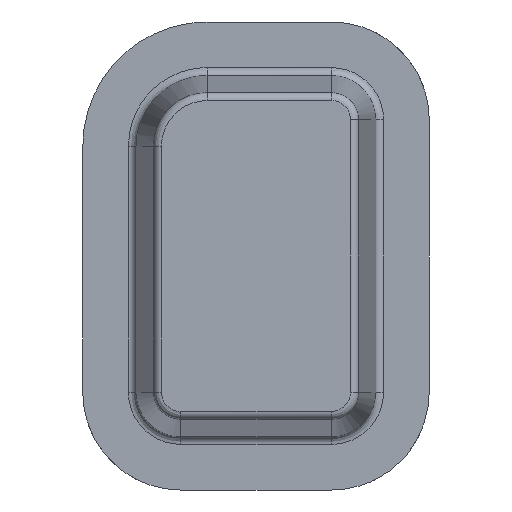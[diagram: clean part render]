
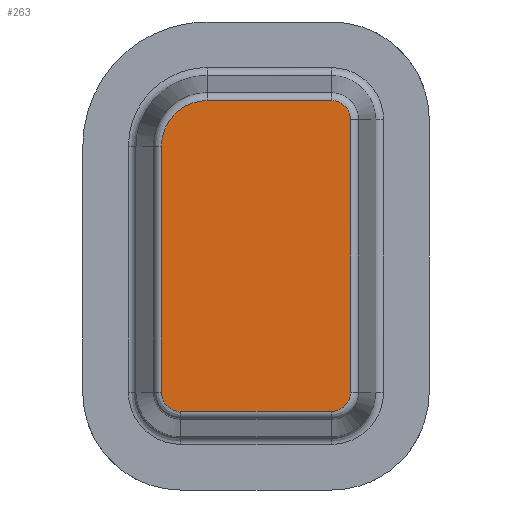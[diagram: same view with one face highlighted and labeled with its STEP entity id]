
A CAD part, front view. The second image highlights one B-rep face of the part: STEP entity #263.
In plain terms, the highlighted planar face has unit normal (0, -1, 0).
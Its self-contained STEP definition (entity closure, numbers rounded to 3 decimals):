
#144=CARTESIAN_POINT('Axis2P3D Location',(39.58,0.,60.42)) ;
#149=CARTESIAN_POINT('Line Origine',(2.749,0.,56.5)) ;
#153=CARTESIAN_POINT('Vertex',(2.749,0.,103.)) ;
#155=CARTESIAN_POINT('Vertex',(2.749,0.,10.)) ;
#159=CARTESIAN_POINT('Control Point',(2.749,0.,10.)) ;
#160=CARTESIAN_POINT('Control Point',(2.749,0.,9.039)) ;
#161=CARTESIAN_POINT('Control Point',(2.908,0.,8.077)) ;
#162=CARTESIAN_POINT('Control Point',(3.227,0.,7.153)) ;
#163=CARTESIAN_POINT('Control Point',(4.157,0.,5.444)) ;
#164=CARTESIAN_POINT('Control Point',(5.587,0.,4.125)) ;
#165=CARTESIAN_POINT('Control Point',(6.406,0.,3.591)) ;
#166=CARTESIAN_POINT('Control Point',(7.615,0.,3.065)) ;
#167=CARTESIAN_POINT('Control Point',(8.897,0.,2.821)) ;
#168=CARTESIAN_POINT('Control Point',(9.235,0.,2.777)) ;
#169=CARTESIAN_POINT('Control Point',(9.592,0.,2.752)) ;
#170=CARTESIAN_POINT('Control Point',(9.95,0.,2.749)) ;
#171=CARTESIAN_POINT('Control Point',(9.967,0.,2.749)) ;
#172=CARTESIAN_POINT('Control Point',(9.983,0.,2.749)) ;
#173=CARTESIAN_POINT('Control Point',(10.,0.,2.749)) ;
#174=CARTESIAN_POINT('Vertex',(10.,0.,2.749)) ;
#177=CARTESIAN_POINT('Line Origine',(38.5,0.,2.749)) ;
#181=CARTESIAN_POINT('Vertex',(67.,0.,2.749)) ;
#185=CARTESIAN_POINT('Control Point',(67.,0.,2.749)) ;
#186=CARTESIAN_POINT('Control Point',(67.961,0.,2.749)) ;
#187=CARTESIAN_POINT('Control Point',(68.923,0.,2.908)) ;
#188=CARTESIAN_POINT('Control Point',(69.847,0.,3.227)) ;
#189=CARTESIAN_POINT('Control Point',(71.556,0.,4.157)) ;
#190=CARTESIAN_POINT('Control Point',(72.875,0.,5.587)) ;
#191=CARTESIAN_POINT('Control Point',(73.409,0.,6.406)) ;
#192=CARTESIAN_POINT('Control Point',(73.935,0.,7.615)) ;
#193=CARTESIAN_POINT('Control Point',(74.179,0.,8.897)) ;
#194=CARTESIAN_POINT('Control Point',(74.223,0.,9.235)) ;
#195=CARTESIAN_POINT('Control Point',(74.248,0.,9.592)) ;
#196=CARTESIAN_POINT('Control Point',(74.251,0.,9.95)) ;
#197=CARTESIAN_POINT('Control Point',(74.251,0.,9.967)) ;
#198=CARTESIAN_POINT('Control Point',(74.251,0.,9.983)) ;
#199=CARTESIAN_POINT('Control Point',(74.251,0.,10.)) ;
#200=CARTESIAN_POINT('Vertex',(74.251,0.,10.)) ;
#203=CARTESIAN_POINT('Line Origine',(74.251,0.,61.5)) ;
#207=CARTESIAN_POINT('Vertex',(74.251,0.,113.)) ;
#211=CARTESIAN_POINT('Control Point',(74.251,0.,113.)) ;
#212=CARTESIAN_POINT('Control Point',(74.251,0.,113.961)) ;
#213=CARTESIAN_POINT('Control Point',(74.092,0.,114.923)) ;
#214=CARTESIAN_POINT('Control Point',(73.773,0.,115.847)) ;
#215=CARTESIAN_POINT('Control Point',(72.843,0.,117.556)) ;
#216=CARTESIAN_POINT('Control Point',(71.413,0.,118.875)) ;
#217=CARTESIAN_POINT('Control Point',(70.594,0.,119.409)) ;
#218=CARTESIAN_POINT('Control Point',(69.385,0.,119.935)) ;
#219=CARTESIAN_POINT('Control Point',(68.103,0.,120.179)) ;
#220=CARTESIAN_POINT('Control Point',(67.765,0.,120.223)) ;
#221=CARTESIAN_POINT('Control Point',(67.408,0.,120.248)) ;
#222=CARTESIAN_POINT('Control Point',(67.05,0.,120.251)) ;
#223=CARTESIAN_POINT('Control Point',(67.033,0.,120.251)) ;
#224=CARTESIAN_POINT('Control Point',(67.017,0.,120.251)) ;
#225=CARTESIAN_POINT('Control Point',(67.,0.,120.251)) ;
#226=CARTESIAN_POINT('Vertex',(67.,0.,120.251)) ;
#229=CARTESIAN_POINT('Line Origine',(43.5,0.,120.251)) ;
#233=CARTESIAN_POINT('Vertex',(20.,0.,120.251)) ;
#237=CARTESIAN_POINT('Control Point',(20.,0.,120.251)) ;
#238=CARTESIAN_POINT('Control Point',(18.077,0.,120.251)) ;
#239=CARTESIAN_POINT('Control Point',(16.154,0.,119.983)) ;
#240=CARTESIAN_POINT('Control Point',(14.282,0.,119.447)) ;
#241=CARTESIAN_POINT('Control Point',(10.736,0.,117.869)) ;
#242=CARTESIAN_POINT('Control Point',(7.758,0.,115.383)) ;
#243=CARTESIAN_POINT('Control Point',(6.452,0.,113.939)) ;
#244=CARTESIAN_POINT('Control Point',(4.494,0.,111.046)) ;
#245=CARTESIAN_POINT('Control Point',(3.314,0.,107.769)) ;
#246=CARTESIAN_POINT('Control Point',(2.954,0.,106.26)) ;
#247=CARTESIAN_POINT('Control Point',(2.762,0.,104.686)) ;
#248=CARTESIAN_POINT('Control Point',(2.749,0.,103.11)) ;
#249=CARTESIAN_POINT('Control Point',(2.749,0.,103.073)) ;
#250=CARTESIAN_POINT('Control Point',(2.749,0.,103.037)) ;
#251=CARTESIAN_POINT('Control Point',(2.749,0.,103.)) ;
#145=DIRECTION('Axis2P3D Direction',(0.,-1.,0.)) ;
#146=DIRECTION('Axis2P3D XDirection',(0.061,0.,0.998)) ;
#150=DIRECTION('Vector Direction',(0.,0.,1.)) ;
#178=DIRECTION('Vector Direction',(1.,0.,0.)) ;
#204=DIRECTION('Vector Direction',(0.,0.,1.)) ;
#230=DIRECTION('Vector Direction',(-1.,0.,0.)) ;
#147=AXIS2_PLACEMENT_3D('Plane Axis2P3D',#144,#145,#146) ;
#254=ORIENTED_EDGE('',*,*,#157,.T.) ;
#255=ORIENTED_EDGE('',*,*,#176,.T.) ;
#256=ORIENTED_EDGE('',*,*,#183,.T.) ;
#257=ORIENTED_EDGE('',*,*,#202,.T.) ;
#258=ORIENTED_EDGE('',*,*,#209,.T.) ;
#259=ORIENTED_EDGE('',*,*,#228,.T.) ;
#260=ORIENTED_EDGE('',*,*,#235,.T.) ;
#261=ORIENTED_EDGE('',*,*,#252,.T.) ;
#151=VECTOR('Line Direction',#150,1.) ;
#179=VECTOR('Line Direction',#178,1.) ;
#205=VECTOR('Line Direction',#204,1.) ;
#231=VECTOR('Line Direction',#230,1.) ;
#263=ADVANCED_FACE('base',(#262),#148,.T.) ;
#158=B_SPLINE_CURVE_WITH_KNOTS('',5,(#159,#160,#161,#162,#163,#164,#165,#166,#167,#168,#169,#170,#171,#172,#173),.UNSPECIFIED.,.F.,.U.,(6,3,3,3,6),(30.448,40.857,51.271,54.961,55.142),.UNSPECIFIED.) ;
#184=B_SPLINE_CURVE_WITH_KNOTS('',5,(#185,#186,#187,#188,#189,#190,#191,#192,#193,#194,#195,#196,#197,#198,#199),.UNSPECIFIED.,.F.,.U.,(6,3,3,3,6),(30.448,40.857,51.271,54.961,55.142),.UNSPECIFIED.) ;
#210=B_SPLINE_CURVE_WITH_KNOTS('',5,(#211,#212,#213,#214,#215,#216,#217,#218,#219,#220,#221,#222,#223,#224,#225),.UNSPECIFIED.,.F.,.U.,(6,3,3,3,6),(30.448,40.857,51.272,54.961,55.142),.UNSPECIFIED.) ;
#236=B_SPLINE_CURVE_WITH_KNOTS('',5,(#237,#238,#239,#240,#241,#242,#243,#244,#245,#246,#247,#248,#249,#250,#251),.UNSPECIFIED.,.F.,.U.,(6,3,3,3,6),(42.522,58.88,75.258,88.351,88.663),.UNSPECIFIED.) ;
#157=EDGE_CURVE('',#154,#156,#152,.F.) ;
#176=EDGE_CURVE('',#156,#175,#158,.T.) ;
#183=EDGE_CURVE('',#175,#182,#180,.T.) ;
#202=EDGE_CURVE('',#182,#201,#184,.T.) ;
#209=EDGE_CURVE('',#201,#208,#206,.T.) ;
#228=EDGE_CURVE('',#208,#227,#210,.T.) ;
#235=EDGE_CURVE('',#227,#234,#232,.T.) ;
#252=EDGE_CURVE('',#234,#154,#236,.T.) ;
#253=EDGE_LOOP('',(#254,#255,#256,#257,#258,#259,#260,#261)) ;
#262=FACE_OUTER_BOUND('',#253,.T.) ;
#152=LINE('Line',#149,#151) ;
#180=LINE('Line',#177,#179) ;
#206=LINE('Line',#203,#205) ;
#232=LINE('Line',#229,#231) ;
#148=PLANE('',#147) ;
#154=VERTEX_POINT('',#153) ;
#156=VERTEX_POINT('',#155) ;
#175=VERTEX_POINT('',#174) ;
#182=VERTEX_POINT('',#181) ;
#201=VERTEX_POINT('',#200) ;
#208=VERTEX_POINT('',#207) ;
#227=VERTEX_POINT('',#226) ;
#234=VERTEX_POINT('',#233) ;
